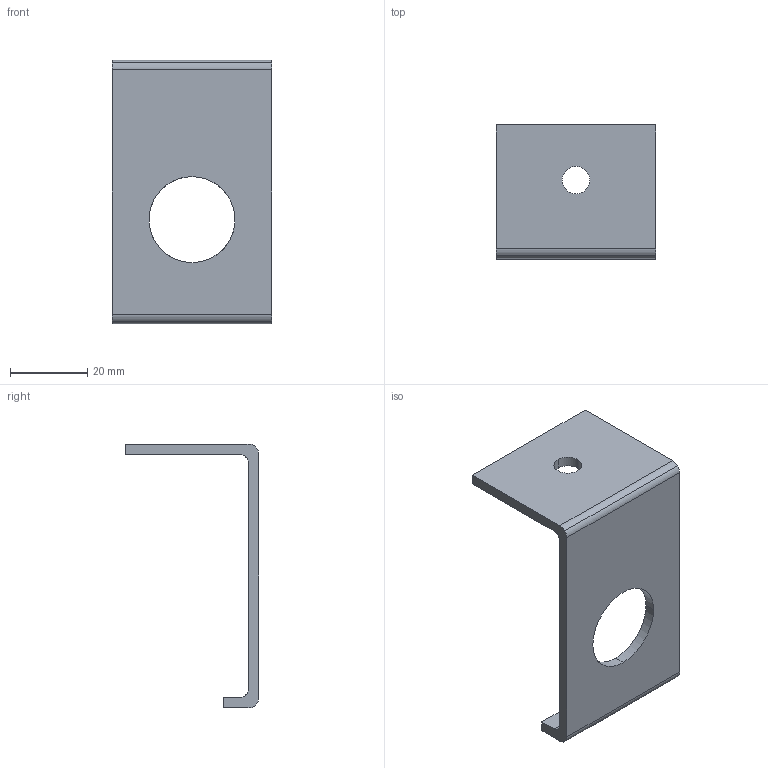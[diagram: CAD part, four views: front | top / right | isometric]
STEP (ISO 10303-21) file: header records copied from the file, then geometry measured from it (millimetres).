
FILE_DESCRIPTION(('TurboCAD Mac Pro'),'Build 980');
FILE_NAME('P5521-50.stp',' ',(''),(''),'ACIS Interop','IMSI','TurboCAD Mac Pro BY IMSI, INCORPORATED');
FILE_SCHEMA(('automotive_design'));
Length unit declared in the file: inch
Products named in the file (1): 1
Bounding box: 41.27 x 34.58 x 68.24 mm (x, y, z)
Volume: 10955.1 mm3; surface area: 8842.3 mm2
Topology: 1 solids, 1 shells, 26 faces, 72 edges, 48 vertices
Faces by surface type: plane 10, cylinder 8, bspline 8
Entity records: 1120 total; most frequent: CARTESIAN_POINT 251, ORIENTED_EDGE 144, DIRECTION 110, EDGE_CURVE 72, VERTEX_POINT 48, LINE 40, VECTOR 40, AXIS2_PLACEMENT_3D 35
